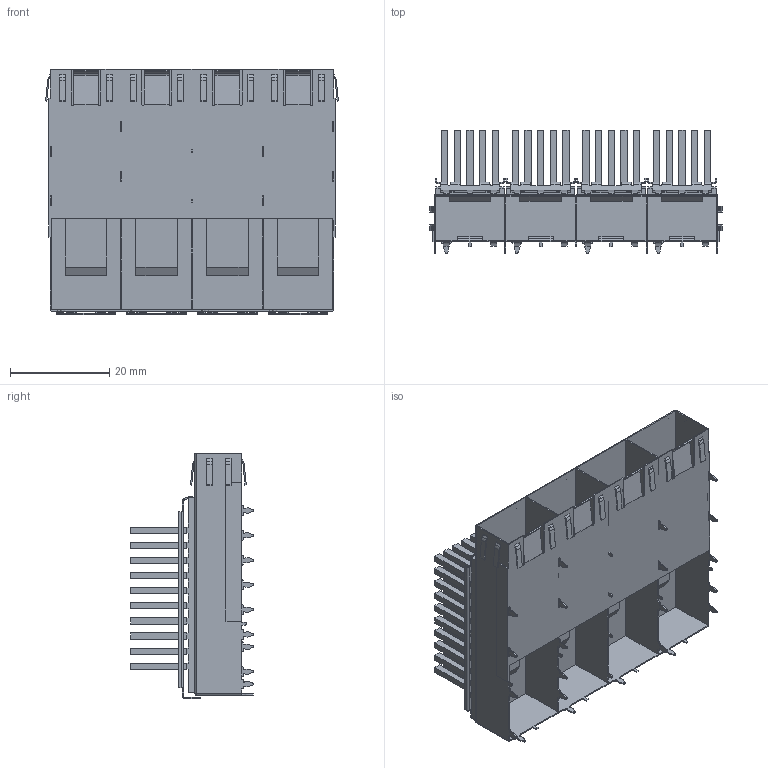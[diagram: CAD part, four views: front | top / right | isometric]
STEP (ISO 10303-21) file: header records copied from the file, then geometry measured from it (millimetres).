
FILE_DESCRIPTION(/* description */ (''),/* implementation_level */ '2;1');
FILE_NAME(/* name */ 'SFP 1X4 压接脚2.05 无月牙 散热器22.75 3D.stp',/* time_stamp */ '2026-08-29T10:14:11+08:00',/* author */ (''),/* organization */ (''),/* preprocessor_version */ 'ST-DEVELOPER v16.7',/* originating_system */ 'SIEMENS PLM Software NX 1847',/* authorisation */ '');
FILE_SCHEMA (('AUTOMOTIVE_DESIGN { 1 0 10303 214 3 1 1 1 }'));
Products named in the file (1): Admi29F470BBid9k
Bounding box: 59.05 x 24.8 x 49.42 mm (x, y, z)
Volume: 9584.8 mm3; surface area: 29470.9 mm2
Topology: 1 solids, 1 shells, 2510 faces, 7092 edges, 4608 vertices
Faces by surface type: plane 1968, cylinder 508, bspline 32, sphere 2
Entity records: 80533 total; most frequent: CARTESIAN_POINT 14922, ORIENTED_EDGE 14180, DIRECTION 12986, EDGE_CURVE 7090, LINE 5994, VECTOR 5994, VERTEX_POINT 4608, AXIS2_PLACEMENT_3D 3496
